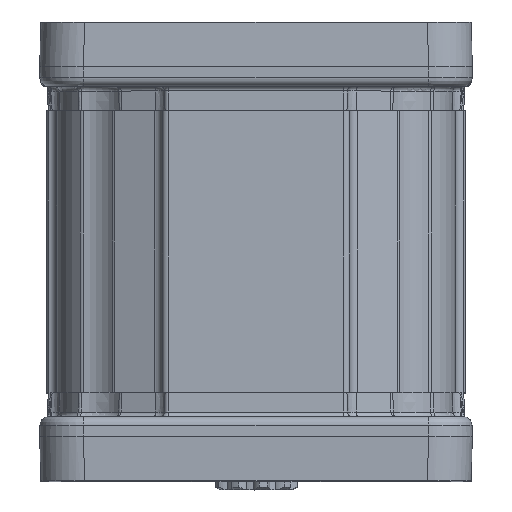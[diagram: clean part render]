
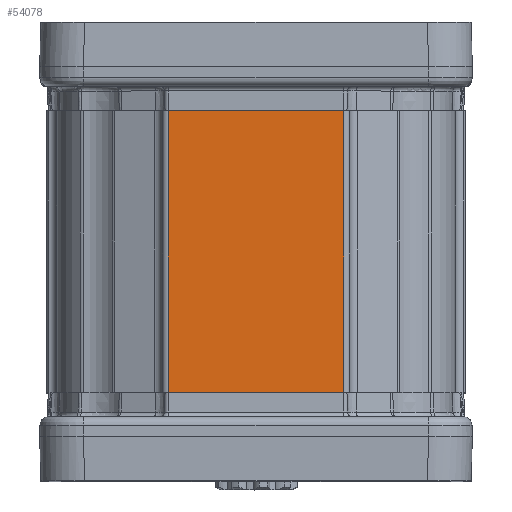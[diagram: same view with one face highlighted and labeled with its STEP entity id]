
A CAD part, top view. The second image highlights one B-rep face of the part: STEP entity #54078.
In plain terms, the highlighted planar face has unit normal (0, 0, 1).
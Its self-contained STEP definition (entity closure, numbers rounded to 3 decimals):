
#13619=ORIENTED_EDGE('',*,*,#21653,.F.);
#13620=ORIENTED_EDGE('',*,*,#21721,.F.);
#13621=ORIENTED_EDGE('',*,*,#21641,.T.);
#13622=ORIENTED_EDGE('',*,*,#21710,.T.);
#21641=EDGE_CURVE('',#26203,#26202,#28980,.T.);
#21653=EDGE_CURVE('',#26214,#26215,#28982,.T.);
#21710=EDGE_CURVE('',#26202,#26215,#29006,.T.);
#21721=EDGE_CURVE('',#26203,#26214,#29017,.T.);
#26202=VERTEX_POINT('',#85195);
#26203=VERTEX_POINT('',#85197);
#26214=VERTEX_POINT('',#85220);
#26215=VERTEX_POINT('',#85222);
#28980=LINE('',#85196,#31028);
#28982=LINE('',#85221,#31030);
#29006=LINE('',#85325,#31054);
#29017=LINE('',#85352,#31065);
#31028=VECTOR('',#66562,1000.);
#31030=VECTOR('',#66586,1000.);
#31054=VECTOR('',#66696,1000.);
#31065=VECTOR('',#66739,1000.);
#33162=EDGE_LOOP('',(#13619,#13620,#13621,#13622));
#35821=FACE_BOUND('',#33162,.T.);
#37377=PLANE('',#57890);
#54078=ADVANCED_FACE('',(#35821),#37377,.T.);
#57890=AXIS2_PLACEMENT_3D('',#85353,#66740,#66741);
#66562=DIRECTION('',(-1.,0.,0.));
#66586=DIRECTION('',(-1.,0.,0.));
#66696=DIRECTION('',(0.,-1.,0.));
#66739=DIRECTION('',(0.,-1.,0.));
#66740=DIRECTION('',(0.,0.,1.));
#66741=DIRECTION('',(1.,0.,0.));
#85195=CARTESIAN_POINT('',(-18.069,58.,49.));
#85196=CARTESIAN_POINT('',(-18.069,58.,49.));
#85197=CARTESIAN_POINT('',(18.069,58.,49.));
#85220=CARTESIAN_POINT('',(18.069,0.,49.));
#85221=CARTESIAN_POINT('',(-18.069,0.,49.));
#85222=CARTESIAN_POINT('',(-18.069,0.,49.));
#85325=CARTESIAN_POINT('',(-18.069,58.,49.));
#85352=CARTESIAN_POINT('',(18.069,58.,49.));
#85353=CARTESIAN_POINT('',(-18.069,58.,49.));
